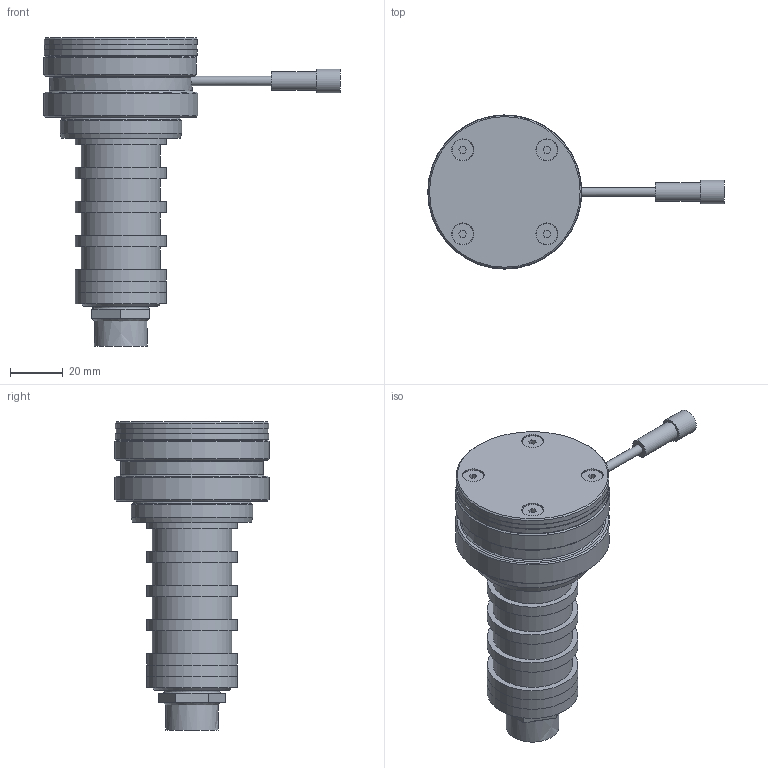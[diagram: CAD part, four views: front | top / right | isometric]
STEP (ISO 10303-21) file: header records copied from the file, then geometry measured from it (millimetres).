
FILE_DESCRIPTION(('STEP AP214'),'1');
FILE_NAME('FLM10-C.stp','2018-06-12T08:51:41',(' '),(' '),'Spatial InterOp 3D',' ',' ');
FILE_SCHEMA(('AUTOMOTIVE_DESIGN { 1 0 10303 214 1 1 1 1 }'));
Length unit declared in the file: millimetre
Products named in the file (1): 1
Bounding box: 112.15 x 58.3 x 116.56 mm (x, y, z)
Volume: 135996.3 mm3; surface area: 35455.5 mm2
Topology: 6 solids, 6 shells, 163 faces, 356 edges, 226 vertices
Faces by surface type: plane 81, cylinder 45, cone 28, torus 6, revolution 3
Full cylindrical faces by diameter (mm): 3.3 x4, 3.5 x1, 4 x4, 4.5 x4, 7 x1, 8.3 x4, 9 x1, 30 x6, 34.4 x10, 40 x1, 46 x1, 54 x1, 57.5 x1, 58 x2, 58.3 x1
Entity records: 5399 total; most frequent: CARTESIAN_POINT 839, DIRECTION 697, ORIENTED_EDGE 518, AXIS2_PLACEMENT_3D 289, EDGE_LOOP 267, EDGE_CURVE 259, FACE_OUTER_BOUND 213, VERTEX_POINT 206
